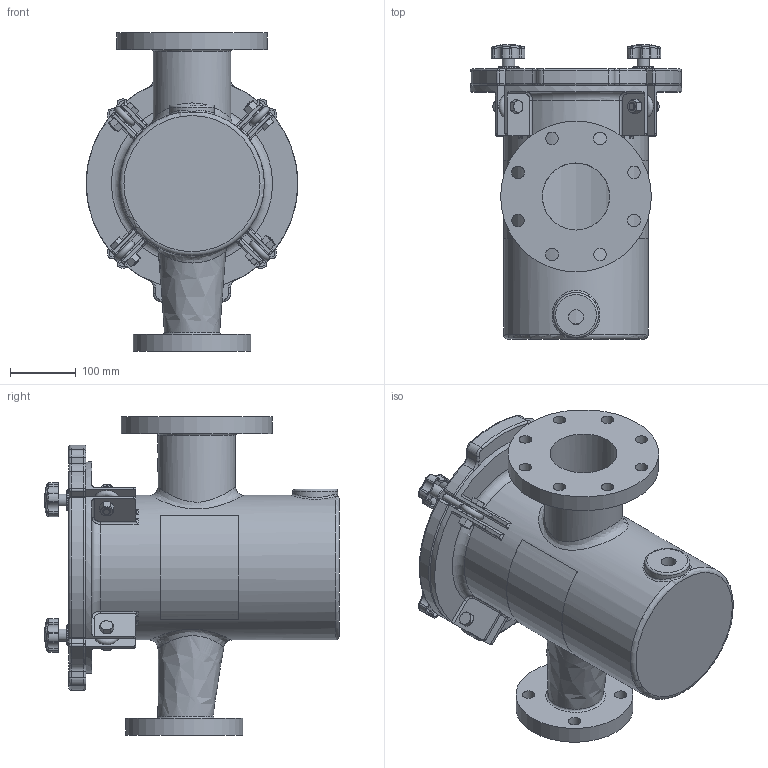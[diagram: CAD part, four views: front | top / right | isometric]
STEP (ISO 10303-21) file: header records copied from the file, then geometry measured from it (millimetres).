
FILE_DESCRIPTION(/* description */ ('STRAINER BODY'),/* implementation_level */ '2;1');
FILE_NAME(/* name */ '\\chntshnas1\IP_PUMPS\NeptuneBenson\Project Execution\WIP\Ready for delivery - Do not Disturb -Updated with metric Flange\Workspace\FG Reducing Strainer\150NBFG425ER1.stp',/* time_stamp */ '2016-10-19T11:54:49+05:00',/* author */ ('20076253'),/* organization */ (''),/* preprocessor_version */ 'ST-DEVELOPER v16.1',/* originating_system */ 'Autodesk Inventor 2016',/* authorisation */ '');
FILE_SCHEMA (('AUTOMOTIVE_DESIGN { 1 0 10303 214 3 1 1 }'));
Length unit declared in the file: inch
Products named in the file (18): NBFG45BODYR1; 150NBCVR13R1; 150NBGSK08R1; Perforated Basket 8in; Bride (Ring) 8in; Baffle 8in; Handle 8in; Bottom Strainer 8in; NBBSK04T316; Nut- 1_2  UNC; Bolt-1_2 x 1 1_2  UNC; EyeBolt; Washer; Knob M10; Securing Assembly For FG without Brace; Label for 8.625 inch (Right)_FG; Label for 8.625 inch (Left)_FG; Guardian FG Reducing H&L Strainer (Inch)
Assembly tree (20 placements, depth 3):
  Guardian FG Reducing H&L Strainer (Inch)
    NBFG45BODYR1
    150NBCVR13R1
    150NBGSK08R1
    NBBSK04T316
      Perforated Basket 8in
      Bride (Ring) 8in
      Baffle 8in
      Handle 8in
      Bottom Strainer 8in
    Securing Assembly For FG without Brace  x4
      Nut- 1_2  UNC
      Bolt-1_2 x 1 1_2  UNC
      EyeBolt
      Washer
      Knob M10
    Label for 8.625 inch (Right)_FG
    Label for 8.625 inch (Left)_FG
Bounding box: 320.68 x 446.18 x 482.6 mm (x, y, z)
Volume: 7328085.5 mm3; surface area: 1757924.6 mm2
Topology: 30 solids, 30 shells, 920 faces, 2121 edges, 1262 vertices
Faces by surface type: cylinder 337, plane 248, torus 93, cone 92, bspline 82, sphere 68
Full cylindrical faces by diameter (mm): 3.175 x10, 6.35 x2, 8.382 x4, 9.525 x9, 10.592 x4, 12.7 x4, 15.875 x8, 19 x8, 19.05 x16, 22.809 x1, 31.75 x4, 68.263 x1, 101.6 x1, 117.475 x1, 142.875 x2, 146.05 x1, 177.8 x1, 203.2 x2, 212.725 x1, 219.075 x1, 222.25 x1, 228.6 x1, 257.175 x1, 263.525 x1
Entity records: 20575 total; most frequent: CARTESIAN_POINT 7274, DIRECTION 2761, ORIENTED_EDGE 2470, EDGE_CURVE 1235, AXIS2_PLACEMENT_3D 1164, VERTEX_POINT 789, EDGE_LOOP 726, CIRCLE 573
